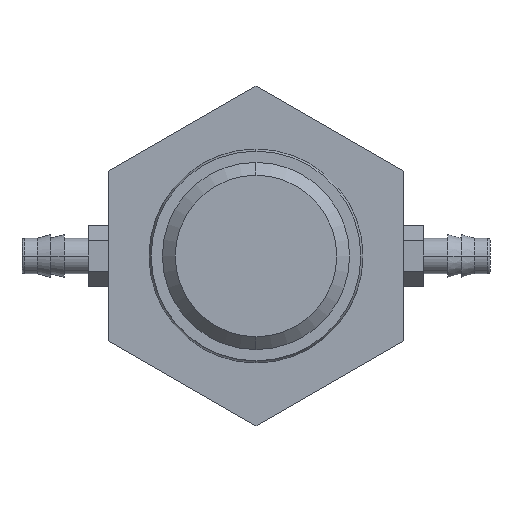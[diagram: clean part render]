
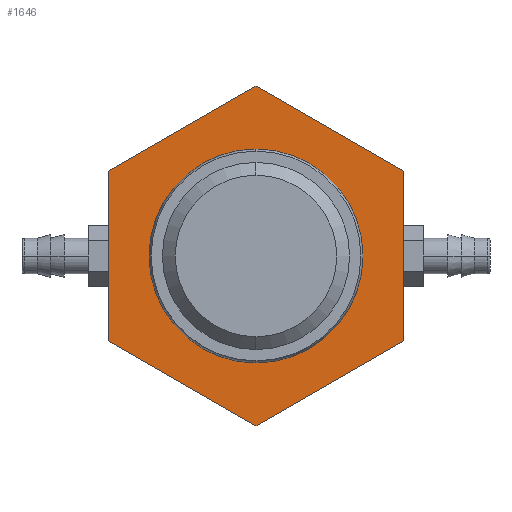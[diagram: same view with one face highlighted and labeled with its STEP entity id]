
A CAD part, left-side view. The second image highlights one B-rep face of the part: STEP entity #1646.
In plain terms, the highlighted planar face has unit normal (-1, 0, 0).
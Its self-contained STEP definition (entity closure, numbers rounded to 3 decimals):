
#1070=CARTESIAN_POINT('',(-2.25,0.,0.413));
#1071=VERTEX_POINT('',#1070);
#1087=CARTESIAN_POINT('',(-2.25,0.,-0.413));
#1088=VERTEX_POINT('',#1087);
#1095=CARTESIAN_POINT('',(-2.25,0.,0.));
#1096=DIRECTION('',(1.0,0.0,0.0));
#1097=DIRECTION('',(0.0,0.0,1.0));
#1098=AXIS2_PLACEMENT_3D('',#1095,#1096,#1097);
#1099=CIRCLE('',#1098,0.413);
#1100=EDGE_CURVE('',#1071,#1088,#1099,.T.);
#1407=CARTESIAN_POINT('',(-2.25,0.,0.));
#1408=DIRECTION('',(1.0,0.0,0.0));
#1409=DIRECTION('',(0.0,0.0,1.0));
#1410=AXIS2_PLACEMENT_3D('',#1407,#1408,#1409);
#1411=CIRCLE('',#1410,0.413);
#1412=EDGE_CURVE('',#1088,#1071,#1411,.T.);
#1444=CARTESIAN_POINT('',(-2.25,-0.688,-0.397));
#1445=VERTEX_POINT('',#1444);
#1452=CARTESIAN_POINT('',(-2.25,0.0,-0.794));
#1453=VERTEX_POINT('',#1452);
#1454=CARTESIAN_POINT('',(-2.25,0.0,-0.794));
#1455=DIRECTION('',(0.0,-0.866,0.5));
#1456=VECTOR('',#1455,0.794);
#1457=LINE('',#1454,#1456);
#1458=EDGE_CURVE('',#1453,#1445,#1457,.T.);
#1482=CARTESIAN_POINT('',(-2.25,-0.688,0.397));
#1483=VERTEX_POINT('',#1482);
#1490=CARTESIAN_POINT('',(-2.25,-0.688,-0.397));
#1491=DIRECTION('',(0.0,0.0,1.0));
#1492=VECTOR('',#1491,0.794);
#1493=LINE('',#1490,#1492);
#1494=EDGE_CURVE('',#1445,#1483,#1493,.T.);
#1513=CARTESIAN_POINT('',(-2.25,0.,0.794));
#1514=VERTEX_POINT('',#1513);
#1521=CARTESIAN_POINT('',(-2.25,-0.688,0.397));
#1522=DIRECTION('',(0.0,0.866,0.5));
#1523=VECTOR('',#1522,0.794);
#1524=LINE('',#1521,#1523);
#1525=EDGE_CURVE('',#1483,#1514,#1524,.T.);
#1544=CARTESIAN_POINT('',(-2.25,0.688,0.397));
#1545=VERTEX_POINT('',#1544);
#1552=CARTESIAN_POINT('',(-2.25,0.,0.794));
#1553=DIRECTION('',(0.0,0.866,-0.5));
#1554=VECTOR('',#1553,0.794);
#1555=LINE('',#1552,#1554);
#1556=EDGE_CURVE('',#1514,#1545,#1555,.T.);
#1575=CARTESIAN_POINT('',(-2.25,0.688,-0.397));
#1576=VERTEX_POINT('',#1575);
#1583=CARTESIAN_POINT('',(-2.25,0.688,0.397));
#1584=DIRECTION('',(0.0,0.0,-1.0));
#1585=VECTOR('',#1584,0.794);
#1586=LINE('',#1583,#1585);
#1587=EDGE_CURVE('',#1545,#1576,#1586,.T.);
#1605=CARTESIAN_POINT('',(-2.25,0.688,-0.397));
#1606=DIRECTION('',(0.0,-0.866,-0.5));
#1607=VECTOR('',#1606,0.794);
#1608=LINE('',#1605,#1607);
#1609=EDGE_CURVE('',#1576,#1453,#1608,.T.);
#1629=CARTESIAN_POINT('',(-2.25,0.0,0.0));
#1630=DIRECTION('',(1.0,0.0,0.0));
#1631=DIRECTION('',(0.0,0.0,-1.0));
#1632=AXIS2_PLACEMENT_3D('',#1629,#1630,#1631);
#1633=PLANE('',#1632);
#1634=ORIENTED_EDGE('',*,*,#1609,.T.);
#1635=ORIENTED_EDGE('',*,*,#1458,.T.);
#1636=ORIENTED_EDGE('',*,*,#1494,.T.);
#1637=ORIENTED_EDGE('',*,*,#1525,.T.);
#1638=ORIENTED_EDGE('',*,*,#1556,.T.);
#1639=ORIENTED_EDGE('',*,*,#1587,.T.);
#1640=EDGE_LOOP('',(#1634,#1635,#1636,#1637,#1638,#1639));
#1641=FACE_OUTER_BOUND('',#1640,.T.);
#1642=ORIENTED_EDGE('',*,*,#1100,.T.);
#1643=ORIENTED_EDGE('',*,*,#1412,.T.);
#1644=EDGE_LOOP('',(#1642,#1643));
#1645=FACE_BOUND('',#1644,.T.);
#1646=ADVANCED_FACE('',(#1641,#1645),#1633,.F.);
